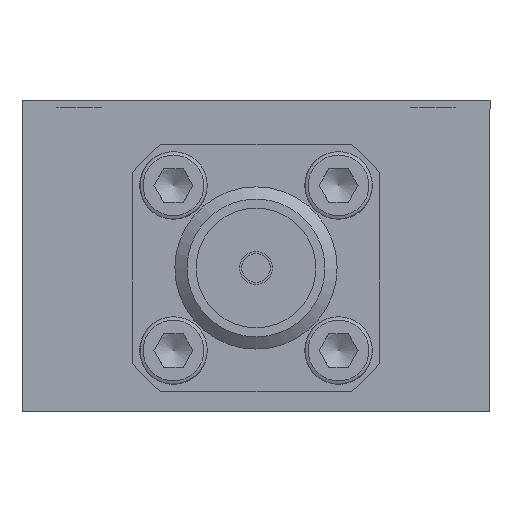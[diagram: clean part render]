
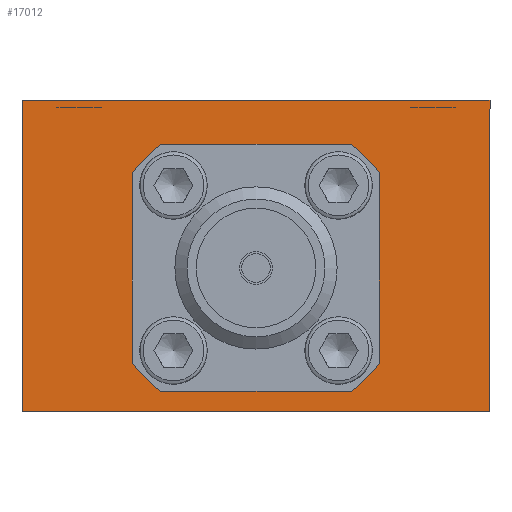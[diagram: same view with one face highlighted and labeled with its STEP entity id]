
A CAD part, left-side view. The second image highlights one B-rep face of the part: STEP entity #17012.
In plain terms, the highlighted planar face has unit normal (-1, 0, 0).
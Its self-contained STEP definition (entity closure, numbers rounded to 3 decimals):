
#143=LINE('',#21534,#1413);
#147=LINE('',#21544,#1417);
#150=LINE('',#21552,#1420);
#153=LINE('',#21560,#1423);
#174=LINE('',#21768,#1444);
#188=LINE('',#21785,#1458);
#189=LINE('',#21795,#1459);
#1295=LINE('',#24391,#2565);
#1299=LINE('',#24400,#2569);
#1300=LINE('',#24401,#2570);
#1413=VECTOR('',#18306,1000.);
#1417=VECTOR('',#18316,1000.);
#1420=VECTOR('',#18325,1000.);
#1423=VECTOR('',#18334,1000.);
#1444=VECTOR('',#18581,1000.);
#1458=VECTOR('',#18599,1000.);
#1459=VECTOR('',#18610,1000.);
#2565=VECTOR('',#20694,1000.);
#2569=VECTOR('',#20700,1000.);
#2570=VECTOR('',#20701,1000.);
#3171=PLANE('',#17876);
#5895=ORIENTED_EDGE('',*,*,#7833,.T.);
#5896=ORIENTED_EDGE('',*,*,#6643,.F.);
#5897=ORIENTED_EDGE('',*,*,#6638,.F.);
#5898=ORIENTED_EDGE('',*,*,#6624,.F.);
#5899=ORIENTED_EDGE('',*,*,#7834,.F.);
#5900=ORIENTED_EDGE('',*,*,#7829,.T.);
#5901=ORIENTED_EDGE('',*,*,#6529,.F.);
#5902=ORIENTED_EDGE('',*,*,#6531,.F.);
#5903=ORIENTED_EDGE('',*,*,#6533,.F.);
#5904=ORIENTED_EDGE('',*,*,#6535,.F.);
#5905=ORIENTED_EDGE('',*,*,#6537,.F.);
#5906=ORIENTED_EDGE('',*,*,#6539,.F.);
#5907=ORIENTED_EDGE('',*,*,#6541,.F.);
#5908=ORIENTED_EDGE('',*,*,#6526,.F.);
#6526=EDGE_CURVE('',#8146,#8147,#143,.T.);
#6529=EDGE_CURVE('',#8148,#8146,#9286,.T.);
#6531=EDGE_CURVE('',#8149,#8148,#147,.T.);
#6533=EDGE_CURVE('',#8150,#8149,#9287,.T.);
#6535=EDGE_CURVE('',#8151,#8150,#150,.T.);
#6537=EDGE_CURVE('',#8152,#8151,#9288,.T.);
#6539=EDGE_CURVE('',#8153,#8152,#153,.T.);
#6541=EDGE_CURVE('',#8147,#8153,#9289,.T.);
#6624=EDGE_CURVE('',#8226,#8224,#174,.T.);
#6638=EDGE_CURVE('',#8224,#8199,#188,.T.);
#6643=EDGE_CURVE('',#8199,#8232,#189,.T.);
#7829=EDGE_CURVE('',#9041,#9042,#1295,.T.);
#7833=EDGE_CURVE('',#9042,#8232,#1299,.T.);
#7834=EDGE_CURVE('',#9041,#8226,#1300,.T.);
#8146=VERTEX_POINT('',#21535);
#8147=VERTEX_POINT('',#21536);
#8148=VERTEX_POINT('',#21541);
#8149=VERTEX_POINT('',#21545);
#8150=VERTEX_POINT('',#21549);
#8151=VERTEX_POINT('',#21553);
#8152=VERTEX_POINT('',#21557);
#8153=VERTEX_POINT('',#21561);
#8199=VERTEX_POINT('',#21698);
#8224=VERTEX_POINT('',#21759);
#8226=VERTEX_POINT('',#21767);
#8232=VERTEX_POINT('',#21796);
#9041=VERTEX_POINT('',#24392);
#9042=VERTEX_POINT('',#24393);
#9286=CIRCLE('',#17259,6.);
#9287=CIRCLE('',#17262,6.);
#9288=CIRCLE('',#17265,6.);
#9289=CIRCLE('',#17268,6.);
#10207=EDGE_LOOP('',(#5895,#5896,#5897,#5898,#5899,#5900));
#10208=EDGE_LOOP('',(#5901,#5902,#5903,#5904,#5905,#5906,#5907,#5908));
#11147=FACE_BOUND('',#10207,.T.);
#11148=FACE_BOUND('',#10208,.T.);
#17012=ADVANCED_FACE('',(#11147,#11148),#3171,.T.);
#17259=AXIS2_PLACEMENT_3D('',#21540,#18311,#18312);
#17262=AXIS2_PLACEMENT_3D('',#21548,#18320,#18321);
#17265=AXIS2_PLACEMENT_3D('',#21556,#18329,#18330);
#17268=AXIS2_PLACEMENT_3D('',#21564,#18338,#18339);
#17876=AXIS2_PLACEMENT_3D('',#24399,#20698,#20699);
#18306=DIRECTION('',(0.,1.,0.));
#18311=DIRECTION('',(-1.,0.,0.));
#18312=DIRECTION('',(0.,0.,-1.));
#18316=DIRECTION('',(0.,0.,1.));
#18320=DIRECTION('',(-1.,0.,0.));
#18321=DIRECTION('',(0.,0.,-1.));
#18325=DIRECTION('',(0.,-1.,0.));
#18329=DIRECTION('',(-1.,0.,0.));
#18330=DIRECTION('',(0.,0.,-1.));
#18334=DIRECTION('',(0.,0.,-1.));
#18338=DIRECTION('',(-1.,0.,0.));
#18339=DIRECTION('',(0.,0.,-1.));
#18581=DIRECTION('',(0.,-1.,0.));
#18599=DIRECTION('',(0.,-1.,0.));
#18610=DIRECTION('',(0.,-1.,0.));
#20694=DIRECTION('',(0.,-1.,0.));
#20698=DIRECTION('',(-1.,0.,0.));
#20699=DIRECTION('',(0.,0.,1.));
#20700=DIRECTION('',(0.,0.,1.));
#20701=DIRECTION('',(0.,0.,1.));
#21534=CARTESIAN_POINT('',(-55.5,-3.666,0.29));
#21535=CARTESIAN_POINT('',(-55.5,-3.666,0.29));
#21536=CARTESIAN_POINT('',(-55.5,3.666,0.29));
#21540=CARTESIAN_POINT('',(-55.5,0.,-4.46));
#21541=CARTESIAN_POINT('',(-55.5,-4.75,-0.794));
#21544=CARTESIAN_POINT('',(-55.5,-4.75,-8.126));
#21545=CARTESIAN_POINT('',(-55.5,-4.75,-8.126));
#21548=CARTESIAN_POINT('',(-55.5,0.,-4.46));
#21549=CARTESIAN_POINT('',(-55.5,-3.666,-9.21));
#21552=CARTESIAN_POINT('',(-55.5,3.666,-9.21));
#21553=CARTESIAN_POINT('',(-55.5,3.666,-9.21));
#21556=CARTESIAN_POINT('',(-55.5,0.,-4.46));
#21557=CARTESIAN_POINT('',(-55.5,4.75,-8.126));
#21560=CARTESIAN_POINT('',(-55.5,4.75,-0.794));
#21561=CARTESIAN_POINT('',(-55.5,4.75,-0.794));
#21564=CARTESIAN_POINT('',(-55.5,0.,-4.46));
#21698=CARTESIAN_POINT('',(-55.5,-6.8,2.));
#21759=CARTESIAN_POINT('',(-55.5,6.8,2.));
#21767=CARTESIAN_POINT('',(-55.5,9.,2.));
#21768=CARTESIAN_POINT('',(-55.5,9.,2.));
#21785=CARTESIAN_POINT('',(-55.5,9.,2.));
#21795=CARTESIAN_POINT('',(-55.5,9.,2.));
#21796=CARTESIAN_POINT('',(-55.5,-9.,2.));
#24391=CARTESIAN_POINT('',(-55.5,9.,-10.));
#24392=CARTESIAN_POINT('',(-55.5,9.,-10.));
#24393=CARTESIAN_POINT('',(-55.5,-9.,-10.));
#24399=CARTESIAN_POINT('',(-55.5,9.,-10.));
#24400=CARTESIAN_POINT('',(-55.5,-9.,-10.));
#24401=CARTESIAN_POINT('',(-55.5,9.,-10.));
